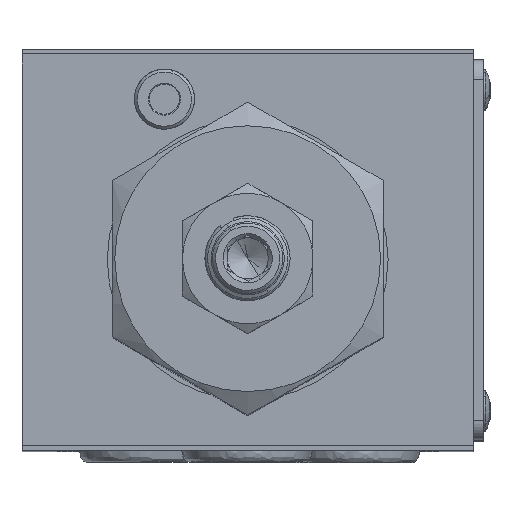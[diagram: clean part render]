
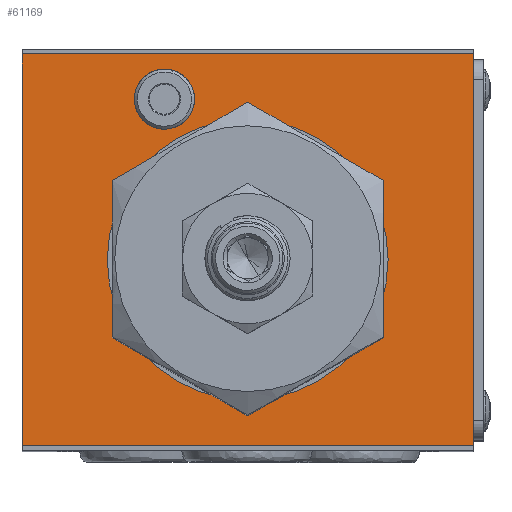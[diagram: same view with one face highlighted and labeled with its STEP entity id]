
A CAD part, top view. The second image highlights one B-rep face of the part: STEP entity #61169.
In plain terms, the highlighted planar face has unit normal (0, 0, 1).
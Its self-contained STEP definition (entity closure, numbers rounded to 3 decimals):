
#385 = CARTESIAN_POINT ( 'NONE',  ( -8.3, 15., 46.5 ) ) ;
#2170 = DIRECTION ( 'NONE',  ( 0., 0., 1. ) ) ;
#2376 = CARTESIAN_POINT ( 'NONE',  ( 0., -1., 46.5 ) ) ;
#4420 = FACE_BOUND ( 'NONE', #51258, .T. ) ;
#5891 = DIRECTION ( 'NONE',  ( 0., 0., 1. ) ) ;
#6615 = CARTESIAN_POINT ( 'NONE',  ( -22.5, 20., 46.5 ) ) ;
#7987 = DIRECTION ( 'NONE',  ( 1., 0., 0. ) ) ;
#9996 = DIRECTION ( 'NONE',  ( 1., 0., 0. ) ) ;
#10089 = ORIENTED_EDGE ( 'NONE', *, *, #56820, .F. ) ;
#10324 = FACE_BOUND ( 'NONE', #81639, .T. ) ;
#14507 = ORIENTED_EDGE ( 'NONE', *, *, #39375, .F. ) ;
#15397 = ORIENTED_EDGE ( 'NONE', *, *, #31624, .F. ) ;
#17529 = DIRECTION ( 'NONE',  ( 1., 0., 0. ) ) ;
#18426 = LINE ( 'NONE', #43713, #36140 ) ;
#20455 = VERTEX_POINT ( 'NONE', #87967 ) ;
#21593 = AXIS2_PLACEMENT_3D ( 'NONE', #32192, #2170, #25268 ) ;
#23406 = CARTESIAN_POINT ( 'NONE',  ( 22.5, -19.5, 46.5 ) ) ;
#25007 = CARTESIAN_POINT ( 'NONE',  ( 22.5, 19.5, 46.5 ) ) ;
#25164 = LINE ( 'NONE', #75760, #34648 ) ;
#25268 = DIRECTION ( 'NONE',  ( 1., 0., 0. ) ) ;
#25647 = ORIENTED_EDGE ( 'NONE', *, *, #34550, .F. ) ;
#26947 = EDGE_CURVE ( 'NONE', #71689, #54466, #18426, .T. ) ;
#28573 = CARTESIAN_POINT ( 'NONE',  ( -22.5, 19.5, 46.5 ) ) ;
#28935 = CIRCLE ( 'NONE', #51959, 14. ) ;
#29783 = CARTESIAN_POINT ( 'NONE',  ( -5.3, 15., 46.5 ) ) ;
#30075 = ORIENTED_EDGE ( 'NONE', *, *, #74419, .F. ) ;
#30621 = ORIENTED_EDGE ( 'NONE', *, *, #66686, .F. ) ;
#31624 = EDGE_CURVE ( 'NONE', #20455, #93983, #28935, .T. ) ;
#32192 = CARTESIAN_POINT ( 'NONE',  ( -22.5, -20., 46.5 ) ) ;
#32341 = EDGE_CURVE ( 'NONE', #93631, #90647, #71464, .T. ) ;
#32446 = AXIS2_PLACEMENT_3D ( 'NONE', #80574, #5891, #65357 ) ;
#32568 = ORIENTED_EDGE ( 'NONE', *, *, #26947, .T. ) ;
#33042 = DIRECTION ( 'NONE',  ( 0., 0., 1. ) ) ;
#34550 = EDGE_CURVE ( 'NONE', #35871, #84156, #88881, .T. ) ;
#34648 = VECTOR ( 'NONE', #84019, 1000. ) ;
#35298 = CIRCLE ( 'NONE', #51825, 3. ) ;
#35739 = ORIENTED_EDGE ( 'NONE', *, *, #32341, .T. ) ;
#35871 = VERTEX_POINT ( 'NONE', #29783 ) ;
#36140 = VECTOR ( 'NONE', #74576, 1000. ) ;
#39375 = EDGE_CURVE ( 'NONE', #84156, #35871, #35298, .T. ) ;
#43713 = CARTESIAN_POINT ( 'NONE',  ( 22.5, 20., 46.5 ) ) ;
#43747 = DIRECTION ( 'NONE',  ( 1., 0., 0. ) ) ;
#46935 = CIRCLE ( 'NONE', #32446, 14. ) ;
#49889 = VECTOR ( 'NONE', #43747, 1000. ) ;
#51258 = EDGE_LOOP ( 'NONE', ( #25647, #14507 ) ) ;
#51825 = AXIS2_PLACEMENT_3D ( 'NONE', #70771, #33042, #17529 ) ;
#51959 = AXIS2_PLACEMENT_3D ( 'NONE', #2376, #84661, #9996 ) ;
#53699 = CARTESIAN_POINT ( 'NONE',  ( -22.5, -19.5, 46.5 ) ) ;
#54466 = VERTEX_POINT ( 'NONE', #25007 ) ;
#56623 = CARTESIAN_POINT ( 'NONE',  ( -14., -1., 46.5 ) ) ;
#56820 = EDGE_CURVE ( 'NONE', #93631, #54466, #68755, .T. ) ;
#61169 = ADVANCED_FACE ( 'NONE', ( #4420, #10324, #88396 ), #62937, .T. ) ;
#62937 = PLANE ( 'NONE',  #21593 ) ;
#65357 = DIRECTION ( 'NONE',  ( 1., 0., 0. ) ) ;
#66163 = CARTESIAN_POINT ( 'NONE',  ( -11.3, 15., 46.5 ) ) ;
#66605 = EDGE_LOOP ( 'NONE', ( #30621, #32568, #10089, #35739 ) ) ;
#66686 = EDGE_CURVE ( 'NONE', #71689, #90647, #25164, .T. ) ;
#68755 = LINE ( 'NONE', #28573, #49889 ) ;
#70771 = CARTESIAN_POINT ( 'NONE',  ( -8.3, 15., 46.5 ) ) ;
#71464 = LINE ( 'NONE', #6615, #89228 ) ;
#71689 = VERTEX_POINT ( 'NONE', #23406 ) ;
#74419 = EDGE_CURVE ( 'NONE', #93983, #20455, #46935, .T. ) ;
#74576 = DIRECTION ( 'NONE',  ( 0., 1., 0. ) ) ;
#75760 = CARTESIAN_POINT ( 'NONE',  ( 22.5, -19.5, 46.5 ) ) ;
#80574 = CARTESIAN_POINT ( 'NONE',  ( 0., -1., 46.5 ) ) ;
#81639 = EDGE_LOOP ( 'NONE', ( #15397, #30075 ) ) ;
#82330 = DIRECTION ( 'NONE',  ( 0., 0., 1. ) ) ;
#83254 = DIRECTION ( 'NONE',  ( 0., -1., 0. ) ) ;
#83456 = CARTESIAN_POINT ( 'NONE',  ( -22.5, 19.5, 46.5 ) ) ;
#84019 = DIRECTION ( 'NONE',  ( -1., 0., 0. ) ) ;
#84156 = VERTEX_POINT ( 'NONE', #66163 ) ;
#84661 = DIRECTION ( 'NONE',  ( 0., 0., 1. ) ) ;
#87967 = CARTESIAN_POINT ( 'NONE',  ( 14., -1., 46.5 ) ) ;
#88396 = FACE_OUTER_BOUND ( 'NONE', #66605, .T. ) ;
#88881 = CIRCLE ( 'NONE', #97201, 3. ) ;
#89228 = VECTOR ( 'NONE', #83254, 1000. ) ;
#90647 = VERTEX_POINT ( 'NONE', #53699 ) ;
#93631 = VERTEX_POINT ( 'NONE', #83456 ) ;
#93983 = VERTEX_POINT ( 'NONE', #56623 ) ;
#97201 = AXIS2_PLACEMENT_3D ( 'NONE', #385, #82330, #7987 ) ;
